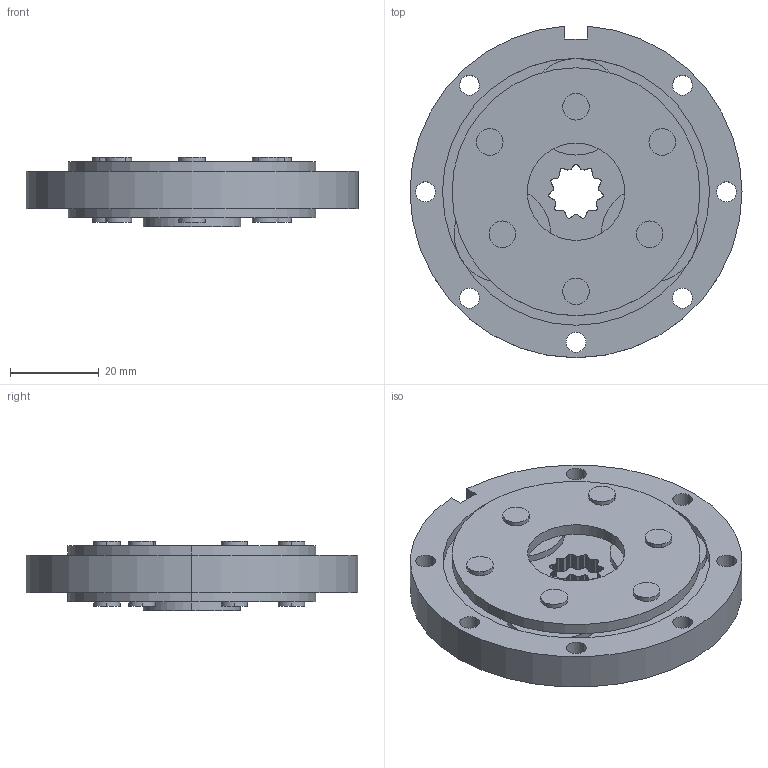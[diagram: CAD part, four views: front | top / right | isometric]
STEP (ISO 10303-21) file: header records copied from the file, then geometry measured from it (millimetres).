
FILE_DESCRIPTION (( 'STEP AP203' ), '1' );
FILE_NAME ('LGU75-4MDD.step', '2021-07-23T02:27:43', ( '' ), ( '' ), 'SwSTEP 2.0', 'SolidWorks 2021', '' );
FILE_SCHEMA (( 'CONFIG_CONTROL_DESIGN' ));
Length unit declared in the file: millimetre
Products named in the file (1): LGU75-4MDD
Bounding box: 75 x 74.92 x 15.7 mm (x, y, z)
Volume: 37855.9 mm3; surface area: 23205.8 mm2
Topology: 1 solids, 1 shells, 419 faces, 1176 edges, 784 vertices
Faces by surface type: cylinder 389, plane 30
Entity records: 14121 total; most frequent: DIRECTION 2794, CARTESIAN_POINT 2380, ORIENTED_EDGE 2352, AXIS2_PLACEMENT_3D 1198, EDGE_CURVE 1176, VERTEX_POINT 784, CIRCLE 778, EDGE_LOOP 472
